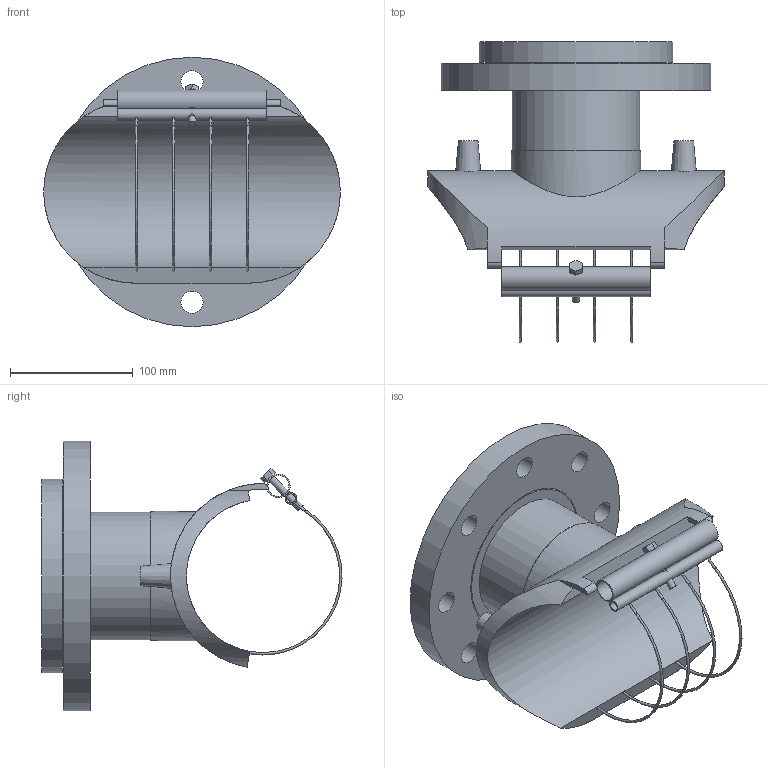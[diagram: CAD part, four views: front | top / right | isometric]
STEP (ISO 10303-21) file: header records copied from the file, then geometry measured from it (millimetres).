
FILE_DESCRIPTION(/* description */ ('Plasson Flanged Branch Saddle 125x100'),/* implementation_level */ '2;1');
FILE_NAME(/* name */ 'C:\Dropbox\99-16-3568-Processing\ElectroFusion Fittings\4959X4\stp\4959X4125100T.stp',/* time_stamp */ '2022-04-28T11:36:48+03:00',/* author */ ('KIM'),/* organization */ (''),/* preprocessor_version */ 'ST-DEVELOPER v17.2',/* originating_system */ 'Autodesk Inventor 2019',/* authorisation */ '');
FILE_SCHEMA (('AUTOMOTIVE_DESIGN { 1 0 10303 214 3 1 1 }'));
Length unit declared in the file: millimetre
Products named in the file (1): 4959X4125100T
Bounding box: 242 x 244.98 x 220 mm (x, y, z)
Volume: 1637924.4 mm3; surface area: 301166.1 mm2
Topology: 2 solids, 2 shells, 79 faces, 243 edges, 168 vertices
Faces by surface type: cylinder 40, plane 29, torus 8, cone 2
Full cylindrical faces by diameter (mm): 6 x3, 7.6 x1, 8 x1, 16 x1, 17.2 x1, 18 x8, 87 x1, 104.4 x1, 105.4 x1, 121.8 x1, 123.8 x1, 158 x1, 220 x1
Entity records: 3722 total; most frequent: CARTESIAN_POINT 1376, ORIENTED_EDGE 490, DIRECTION 481, EDGE_CURVE 245, AXIS2_PLACEMENT_3D 204, VERTEX_POINT 168, CIRCLE 120, EDGE_LOOP 117
